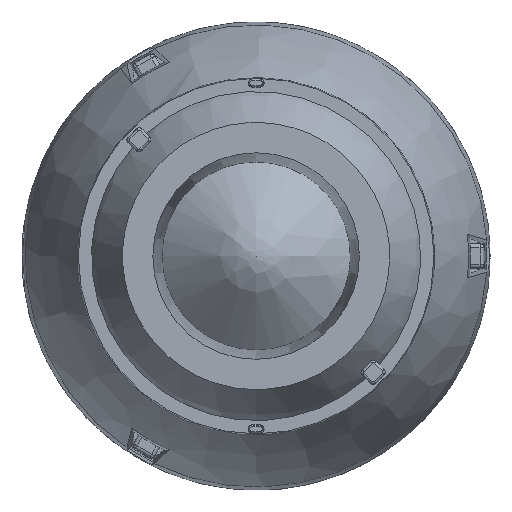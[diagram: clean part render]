
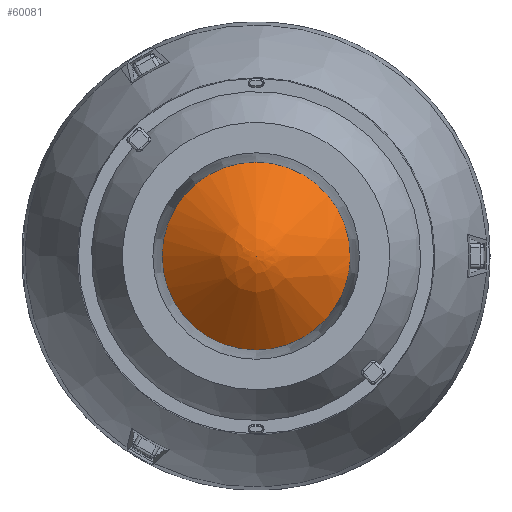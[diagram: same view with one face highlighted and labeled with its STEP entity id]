
A CAD part, front view. The second image highlights one B-rep face of the part: STEP entity #60081.
In plain terms, the highlighted free-form (B-spline) face has degree [2, 3] with [3, 7] control points.
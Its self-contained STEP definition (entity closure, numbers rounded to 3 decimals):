
#1026 = DIRECTION ( 'NONE',  ( 0., 0., -1. ) ) ;
#1407 = CARTESIAN_POINT ( 'NONE',  ( 3.708, 7.416, 13.5 ) ) ;
#2598 = CARTESIAN_POINT ( 'NONE',  ( 3.708, 0., 13.5 ) ) ;
#3770 = CARTESIAN_POINT ( 'NONE',  ( -3.708, 7.416, 13.5 ) ) ;
#16623 = CARTESIAN_POINT ( 'NONE',  ( 12.458, 0., 20.891 ) ) ;
#30352 = CARTESIAN_POINT ( 'NONE',  ( 0., 0., 20.891 ) ) ;
#33144 = CARTESIAN_POINT ( 'NONE',  ( -12.458, 0., 20.891 ) ) ;
#55791 = ORIENTED_EDGE ( 'NONE', *, *, #87785, .T. ) ;
#58800 =( BOUNDED_SURFACE ( )  B_SPLINE_SURFACE ( 2, 3, ( 
 ( #85988, #59601, #72533, #85405, #73709, #100074, #171635 ),
 ( #58989, #1407, #3770, #99469, #114190, #170439, #2598 ),
 ( #16623, #156954, #73095, #33144, #133045, #117224, #145285 ) ),
 .UNSPECIFIED., .F., .T., .F. ) 
 B_SPLINE_SURFACE_WITH_KNOTS ( ( 3, 3 ),
 ( 4, 3, 4 ),
 ( 0., 1. ),
 ( 0., 0.5, 1. ),
 .UNSPECIFIED. ) 
 GEOMETRIC_REPRESENTATION_ITEM ( )  RATIONAL_B_SPLINE_SURFACE ( (
 ( 1., 0.333, 0.333, 1., 0.333, 0.333, 1.),
 ( 1.309, 0.436, 0.436, 1.309, 0.436, 0.436, 1.309),
 ( 1.021, 0.34, 0.34, 1.021, 0.34, 0.34, 1.021) ) ) 
 REPRESENTATION_ITEM ( '' )  SURFACE ( )  );
#58989 = CARTESIAN_POINT ( 'NONE',  ( 3.708, 0., 13.5 ) ) ;
#59601 = CARTESIAN_POINT ( 'NONE',  ( 0., 0., 13.5 ) ) ;
#60081 = ADVANCED_FACE ( 'NONE', ( #174998 ), #58800, .F. ) ;
#72533 = CARTESIAN_POINT ( 'NONE',  ( 0., 0., 13.5 ) ) ;
#73095 = CARTESIAN_POINT ( 'NONE',  ( -12.458, 24.916, 20.891 ) ) ;
#73709 = CARTESIAN_POINT ( 'NONE',  ( 0., 0., 13.5 ) ) ;
#85405 = CARTESIAN_POINT ( 'NONE',  ( 0., 0., 13.5 ) ) ;
#85630 = DIRECTION ( 'NONE',  ( 0.968, 0.251, 0. ) ) ;
#85988 = CARTESIAN_POINT ( 'NONE',  ( 0., 0., 13.5 ) ) ;
#87785 = EDGE_CURVE ( 'NONE', #118532, #118532, #171938, .T. ) ;
#88840 = CARTESIAN_POINT ( 'NONE',  ( 12.059, 3.129, 20.891 ) ) ;
#99469 = CARTESIAN_POINT ( 'NONE',  ( -3.708, 0., 13.5 ) ) ;
#100074 = CARTESIAN_POINT ( 'NONE',  ( 0., 0., 13.5 ) ) ;
#114190 = CARTESIAN_POINT ( 'NONE',  ( -3.708, -7.416, 13.5 ) ) ;
#117224 = CARTESIAN_POINT ( 'NONE',  ( 12.458, -24.916, 20.891 ) ) ;
#118532 = VERTEX_POINT ( 'NONE', #88840 ) ;
#133045 = CARTESIAN_POINT ( 'NONE',  ( -12.458, -24.916, 20.891 ) ) ;
#145285 = CARTESIAN_POINT ( 'NONE',  ( 12.458, 0., 20.891 ) ) ;
#147402 = EDGE_LOOP ( 'NONE', ( #55791 ) ) ;
#149100 = AXIS2_PLACEMENT_3D ( 'NONE', #30352, #1026, #85630 ) ;
#156954 = CARTESIAN_POINT ( 'NONE',  ( 12.458, 24.916, 20.891 ) ) ;
#170439 = CARTESIAN_POINT ( 'NONE',  ( 3.708, -7.416, 13.5 ) ) ;
#171635 = CARTESIAN_POINT ( 'NONE',  ( 0., 0., 13.5 ) ) ;
#171938 = CIRCLE ( 'NONE', #149100, 12.458 ) ;
#174998 = FACE_OUTER_BOUND ( 'NONE', #147402, .T. ) ;
